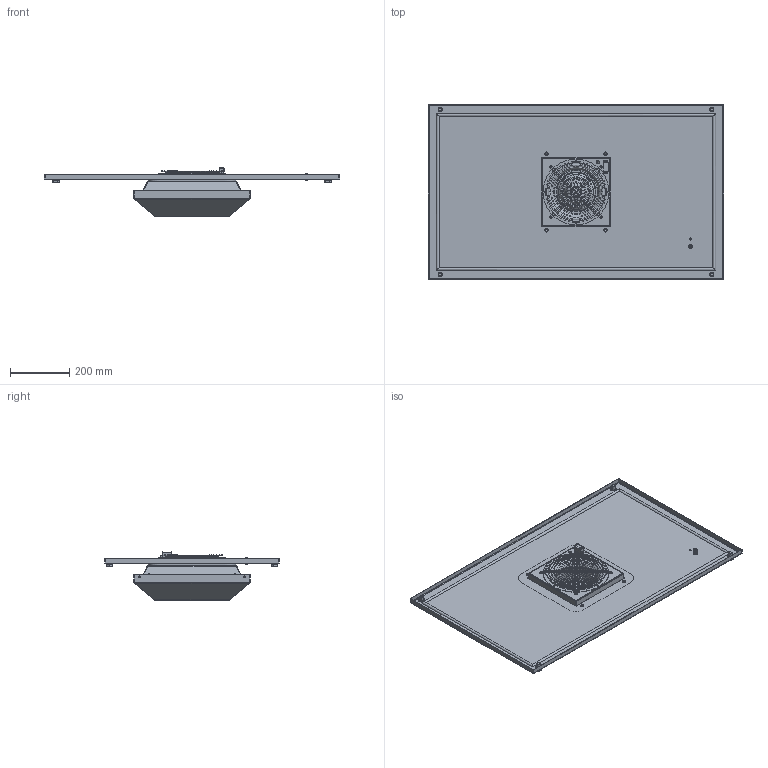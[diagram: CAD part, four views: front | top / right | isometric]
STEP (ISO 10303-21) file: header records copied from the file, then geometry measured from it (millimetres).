
FILE_DESCRIPTION (( 'STEP AP203' ), '1' );
FILE_NAME ('pthp610b.STEP', '2013-10-16T11:47:27', ( '' ), ( '' ), 'SwSTEP 2.0', 'SolidWorks 2010', '' );
FILE_SCHEMA (( 'CONFIG_CONTROL_DESIGN' ));
Length unit declared in the file: inch
Products named in the file (22): 21158174_BOLT, M12 x 1.75 x 16; 11158884_FLEXIBLE; 87419394; 87794889; 87416352; 60127394; 87417797_wire_supp; 87417885_wire_supp; 87416362; 87541235; 28154002; 87417931; 99415120_99415120; 89051866; 87794887; 89059247_FIP GASKET; 87931368_SLEEVE; 87931527_87931527; 60100041_60100041; 87792634_87792634; 87793372; pthp610b
Assembly tree (27 placements, depth 4):
  pthp610b
    87417797_wire_supp
    87416352
      87794889
    87417885_wire_supp
    87417931
    87794887
      99415120_99415120  x4
      89051866
    87541235
    87419394
    87793372
      60100041_60100041
        87931368_SLEEVE
        87931527_87931527
      87792634_87792634
      89059247_FIP GASKET
    11158884_FLEXIBLE
      21158174_BOLT, M12 x 1.75 x 16  x4
    60127394
    28154002
    87416362
Bounding box: 998.83 x 591.82 x 165.33 mm (x, y, z)
Volume: 2626789.8 mm3; surface area: 2617873.1 mm2
Topology: 37 solids, 37 shells, 1903 faces, 4672 edges, 2921 vertices
Faces by surface type: plane 1142, cylinder 455, cone 120, torus 120, bspline 66
Entity records: 50579 total; most frequent: CARTESIAN_POINT 11108, DIRECTION 7645, ORIENTED_EDGE 7534, EDGE_CURVE 3767, AXIS2_PLACEMENT_3D 2554, VECTOR 2537, LINE 2537, VERTEX_POINT 2345
